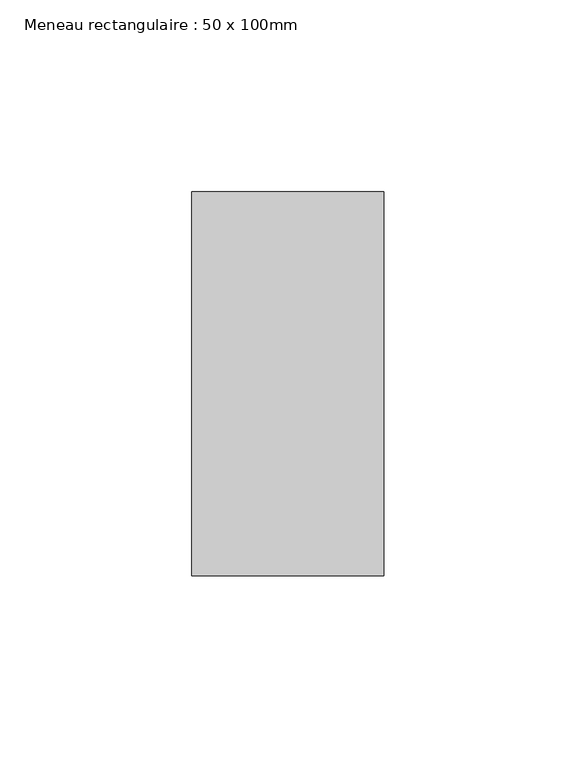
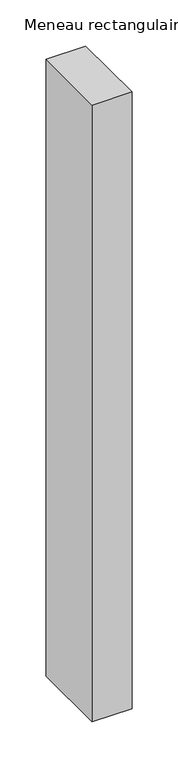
"""IFC4 building model written with IfcOpenShell, lengths in millimetres: member geometry, Meneau rectangulaire : 50 x 100mm."""

from ifc_helpers import new_model, si_unit, frame, origin, place, context, project, spatial, polyline, outline, extrude, source, transform, mapped, element, save


def meneau_rectangulaire_50_x_100mm_f0ec9ac6(model_context):
    return source(origin(), model_context, "Body", "SweptSolid", [
        extrude(outline(polyline([(0.0, 50.0), (0.0, -50.0), (-50.0, -50.0), (-50.0, 50.0), (0.0, 50.0)])), frame((0.0, 0.0, -817.0971584), z_axis=(0.0, 0.0, 1.0), x_axis=(1.0, 0.0, 0.0)), (0.0, 0.0, 1.0), 817.0971584),
    ])


if __name__ == "__main__":
    model = new_model("IFC4")
    model_context = context("Model", 3, world=origin())
    ifc_project = project(units=[si_unit("LENGTHUNIT", "METRE", prefix="MILLI")], contexts=[model_context])
    site = spatial("IfcSite", under=ifc_project)
    building = spatial("IfcBuilding", under=site)
    placement = place(None, origin())
    meneau_rectangulaire_50_x_100mm_shape = meneau_rectangulaire_50_x_100mm_f0ec9ac6(model_context)
    element("IfcMember", 1, ObjectType="Meneau rectangulaire : 50 x 100mm", at=placement, inside=building, context=model_context, shape_type="MappedRepresentation", body=[
        mapped(meneau_rectangulaire_50_x_100mm_shape, transform((0.0, 0.0, 0.0), x_axis=(1.0, 0.0, 0.0), y_axis=(0.0, 1.0, 0.0), z_axis=(0.0, 0.0, 1.0))),
    ])
    save(model, "model.ifc")
